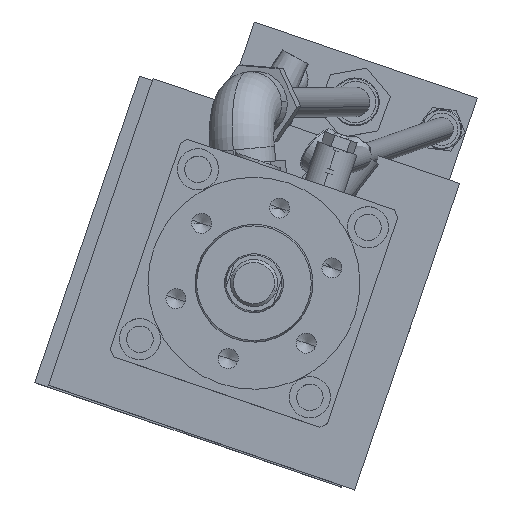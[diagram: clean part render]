
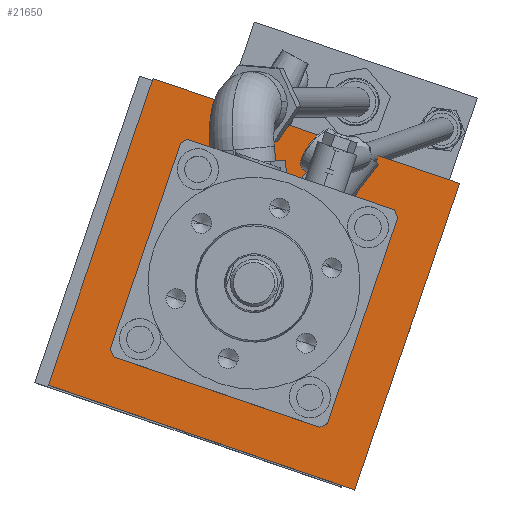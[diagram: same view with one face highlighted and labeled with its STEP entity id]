
A CAD part, top view. The second image highlights one B-rep face of the part: STEP entity #21650.
In plain terms, the highlighted planar face has unit normal (0, 0, 1).
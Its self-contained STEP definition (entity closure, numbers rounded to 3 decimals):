
#833 = EDGE_CURVE ( 'NONE', #7389, #8747, #16198, .T. ) ;
#3451 = ORIENTED_EDGE ( 'NONE', *, *, #833, .F. ) ;
#3456 = DIRECTION ( 'NONE',  ( -0.946, 0.323, 0. ) ) ;
#3574 = DIRECTION ( 'NONE',  ( 0.323, 0.946, 0. ) ) ;
#3609 = PLANE ( 'NONE',  #5255 ) ;
#3726 = DIRECTION ( 'NONE',  ( -0.946, 0.323, 0. ) ) ;
#4061 = CARTESIAN_POINT ( 'NONE',  ( -196.555, 367.02, -192.543 ) ) ;
#5255 = AXIS2_PLACEMENT_3D ( 'NONE', #11188, #7664, #3726 ) ;
#5422 = ORIENTED_EDGE ( 'NONE', *, *, #8862, .F. ) ;
#6185 = VERTEX_POINT ( 'NONE', #17072 ) ;
#6550 = DIRECTION ( 'NONE',  ( 0.946, -0.323, 0. ) ) ;
#7198 = DIRECTION ( 'NONE',  ( -0.323, -0.946, 0. ) ) ;
#7389 = VERTEX_POINT ( 'NONE', #11320 ) ;
#7664 = DIRECTION ( 'NONE',  ( 0., 0., -1. ) ) ;
#8551 = ORIENTED_EDGE ( 'NONE', *, *, #8780, .F. ) ;
#8668 = VECTOR ( 'NONE', #3456, 1000. ) ;
#8747 = VERTEX_POINT ( 'NONE', #20275 ) ;
#8780 = EDGE_CURVE ( 'NONE', #9463, #6185, #14974, .T. ) ;
#8862 = EDGE_CURVE ( 'NONE', #6185, #7389, #9723, .T. ) ;
#9072 = LINE ( 'NONE', #24596, #23157 ) ;
#9426 = VECTOR ( 'NONE', #3574, 1000. ) ;
#9463 = VERTEX_POINT ( 'NONE', #4061 ) ;
#9723 = LINE ( 'NONE', #20897, #9426 ) ;
#11188 = CARTESIAN_POINT ( 'NONE',  ( -401.301, -62.113, -192.543 ) ) ;
#11320 = CARTESIAN_POINT ( 'NONE',  ( -265.081, 506.677, -192.543 ) ) ;
#12056 = ORIENTED_EDGE ( 'NONE', *, *, #23382, .F. ) ;
#14974 = LINE ( 'NONE', #20408, #8668 ) ;
#16198 = LINE ( 'NONE', #23941, #20330 ) ;
#17072 = CARTESIAN_POINT ( 'NONE',  ( -300.647, 402.585, -192.543 ) ) ;
#20275 = CARTESIAN_POINT ( 'NONE',  ( -160.989, 471.111, -192.543 ) ) ;
#20330 = VECTOR ( 'NONE', #6550, 1000. ) ;
#20408 = CARTESIAN_POINT ( 'NONE',  ( -196.555, 367.02, -192.543 ) ) ;
#20850 = EDGE_LOOP ( 'NONE', ( #12056, #3451, #5422, #8551 ) ) ;
#20897 = CARTESIAN_POINT ( 'NONE',  ( -265.081, 506.677, -192.543 ) ) ;
#21650 = ADVANCED_FACE ( 'NONE', ( #21685 ), #3609, .F. ) ;
#21685 = FACE_OUTER_BOUND ( 'NONE', #20850, .T. ) ;
#23157 = VECTOR ( 'NONE', #7198, 1000. ) ;
#23382 = EDGE_CURVE ( 'NONE', #8747, #9463, #9072, .T. ) ;
#23941 = CARTESIAN_POINT ( 'NONE',  ( -160.989, 471.111, -192.543 ) ) ;
#24596 = CARTESIAN_POINT ( 'NONE',  ( -160.989, 471.111, -192.543 ) ) ;
